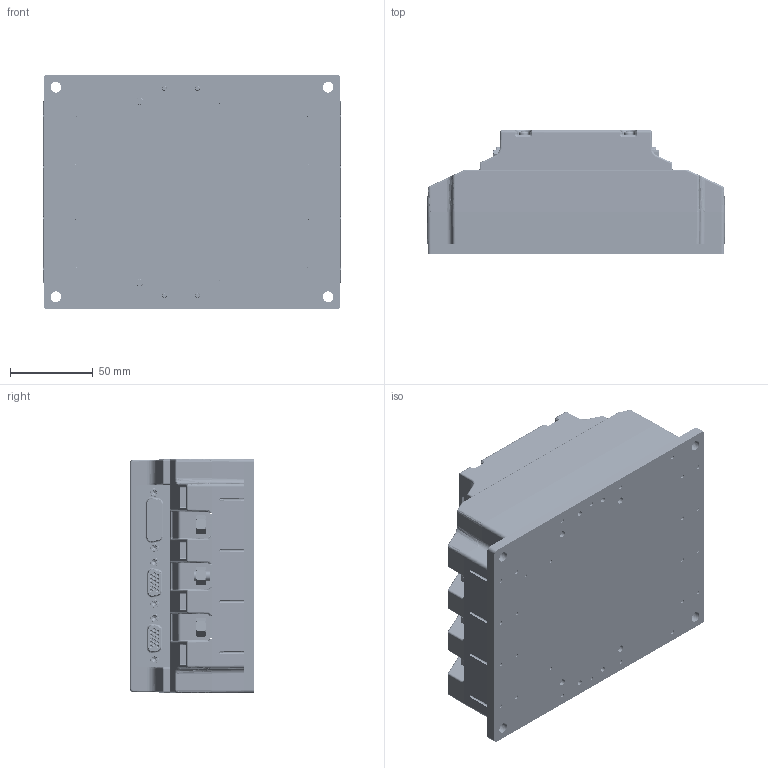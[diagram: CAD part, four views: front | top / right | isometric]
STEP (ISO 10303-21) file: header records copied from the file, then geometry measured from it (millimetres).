
FILE_DESCRIPTION (( 'STEP AP214' ), '1' );
FILE_NAME ('Drum-HV.STEP', '2012-10-10T12:55:40', ( 'YAEL' ), ( 'Microsoft' ), 'SwSTEP 2.0', 'SolidWorks 2012', '' );
FILE_SCHEMA (( 'AUTOMOTIVE_DESIGN' ));
Length unit declared in the file: millimetre
Products named in the file (1): Drum-HV
Bounding box: 180.34 x 75.2 x 142.34 mm (x, y, z)
Volume: 381135.8 mm3; surface area: 280808.1 mm2
Topology: 102 solids, 102 shells, 7330 faces, 18545 edges, 11564 vertices
Faces by surface type: plane 3779, cylinder 1940, bspline 975, cone 628, torus 8
Entity records: 291171 total; most frequent: CARTESIAN_POINT 81976, ORIENTED_EDGE 36746, DIRECTION 32764, EDGE_CURVE 18373, VERTEX_POINT 11564, LINE 11384, VECTOR 11384, AXIS2_PLACEMENT_3D 10690
